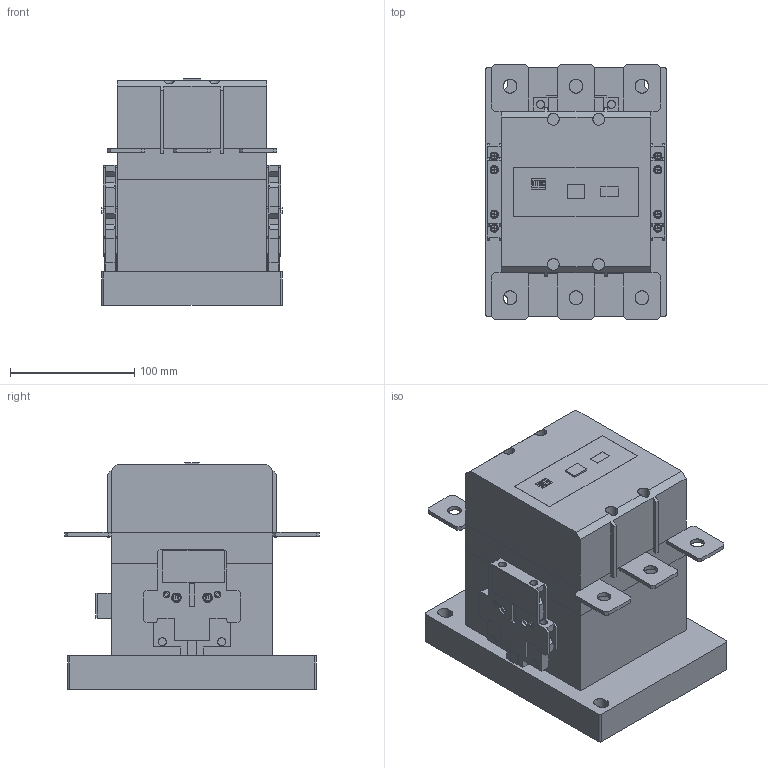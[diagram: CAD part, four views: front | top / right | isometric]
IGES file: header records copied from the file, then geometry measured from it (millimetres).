
Start section: SolidWorks IGES file using analytic representation for surfaces
Global section: file name: Q:\GROUPS\BR_SC_JGS_WA_TECNICO\ENG\Usuarios\Rodrigob\conversão\contatores\Produto\CWM250\CWM250.IGS; native system: SolidWorks 2012; preprocessor: SolidWorks 2012; author: rodrigob; date: 140529.071445; units: millimetre
Bounding box: 145.1 x 205 x 182.45 mm (x, y, z)
Surface area: 279910.1 mm2 (no closed solid volume)
Topology: 0 solids, 0 shells, 1406 faces, 12760 edges, 12760 vertices
Faces by surface type: bspline 1004, revolution 402
